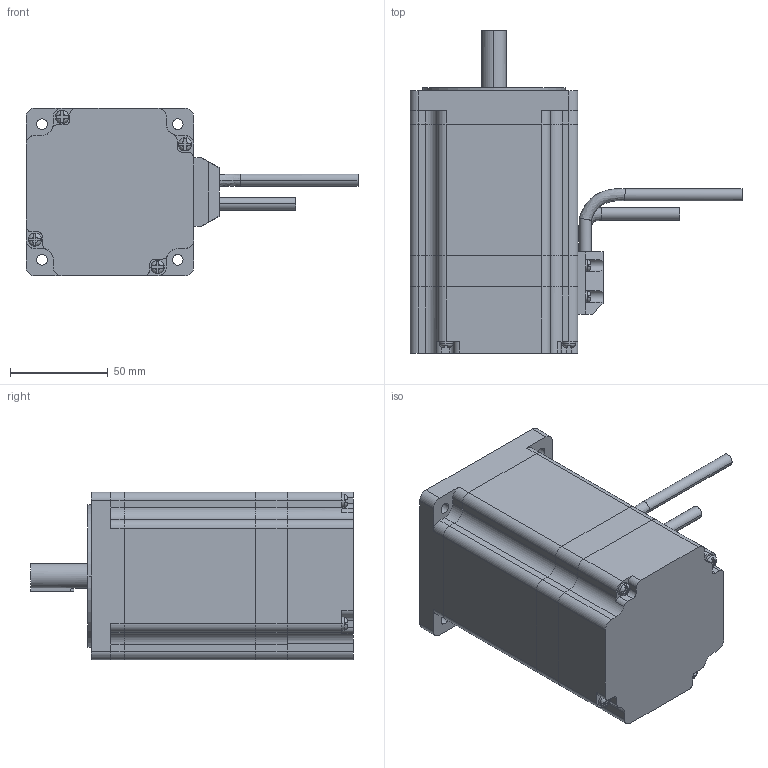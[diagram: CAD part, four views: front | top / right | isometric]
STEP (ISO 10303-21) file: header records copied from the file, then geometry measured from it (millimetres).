
FILE_DESCRIPTION((''),'2;1');
FILE_NAME('MT34HE38100E4K1_ASM','2025-12-19T16:07:07',('carol'),(''),'CREO PARAMETRIC BY PTC INC, 2020414','CREO PARAMETRIC BY PTC INC, 2020414','');
FILE_SCHEMA(('CONFIG_CONTROL_DESIGN'));
Length unit declared in the file: millimetre
Products named in the file (13): RC_1_1; RE_1_1; ST_1_1; FE_1_1; SF_1_1; LCCP_1_1; SCCP_1_1; LLCP_1_1; LLCP2_1_1; MT34HE38100E4K1_ASM_1_ASM_1_ASM; SCP_1; MT34HE38100E4K1_ASM_1_ASM; MT34HE38100E4K1_ASM
Assembly tree (18 placements, depth 4):
  MT34HE38100E4K1_ASM
    MT34HE38100E4K1_ASM_1_ASM
      MT34HE38100E4K1_ASM_1_ASM_1_ASM
        RC_1_1
        RE_1_1
        ST_1_1
        FE_1_1
        SF_1_1
        LCCP_1_1
        SCCP_1_1  x4
        LLCP_1_1
        LLCP2_1_1
      SCP_1  x4
Bounding box: 170.25 x 165.5 x 86 mm (x, y, z)
Volume: 551653.4 mm3; surface area: 148867.6 mm2
Topology: 16 solids, 16 shells, 458 faces, 1218 edges, 813 vertices
Faces by surface type: plane 251, cylinder 183, bspline 12, torus 8, cone 4
Entity records: 12336 total; most frequent: CARTESIAN_POINT 3304, DIRECTION 1946, ORIENTED_EDGE 1788, EDGE_CURVE 894, AXIS2_PLACEMENT_3D 730, VERTEX_POINT 597, VECTOR 486, LINE 486
